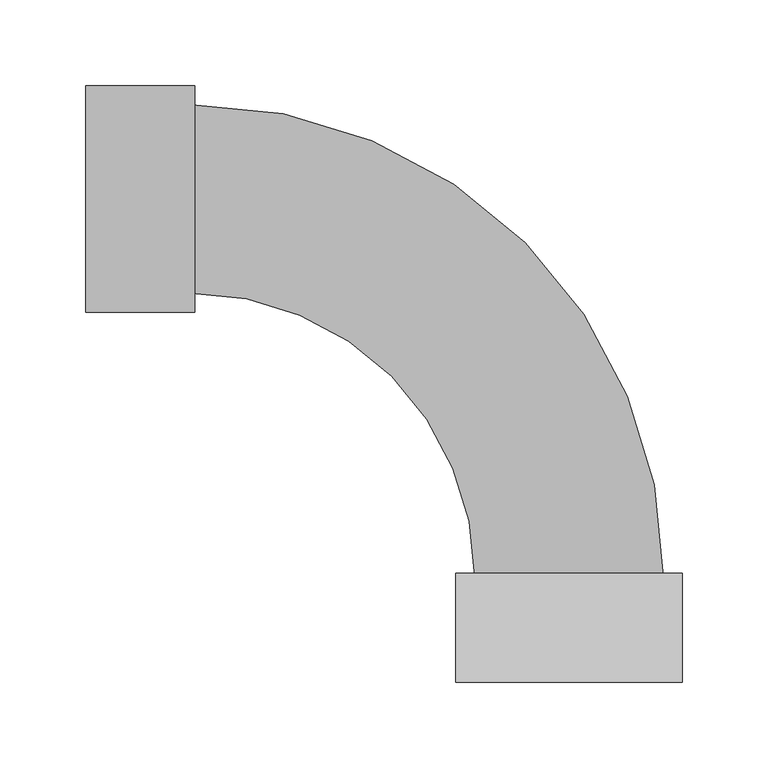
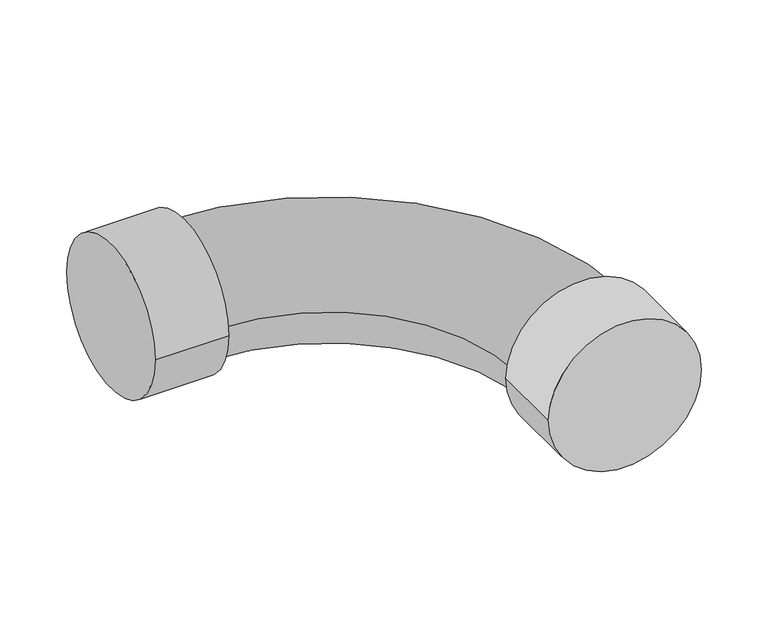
"""IFC4 building model written with IfcOpenShell, lengths in millimetres: pipe fitting geometry, 01051159 : Curvas 90º H/H."""

from ifc_helpers import new_model, si_unit, point, frame, origin, origin_2d, place, context, project, spatial, circle_curve, ellipse_curve, trimmed, segment, composite_curve, outline, extrude, source, transform, mapped, element, save
from ifc_brep_helpers import plane_surface, revolved_surface, advanced_brep


def pipe_fitting_ba4ada72(model_context):
    return source(origin(), model_context, "Body", "SolidModel", [
        extrude(outline(composite_curve([segment(trimmed(circle_curve(origin_2d(), 66.0), [point((66.0, 0.0))], [point((-66.0, 0.0))], False, "CARTESIAN"), True, "CONTINUOUS"), segment(trimmed(circle_curve(origin_2d(), 66.0), [point((-66.0, 0.0))], [point((66.0, 0.0))], False, "CARTESIAN"), True, "CONTINUOUS")], self_intersect=False)), frame((-281.5, 0.0, 0.0), z_axis=(1.0, 0.0, 0.0), x_axis=(0.0, 1.0, 0.0)), (0.0, 0.0, 1.0), 63.5),
        extrude(outline(composite_curve([segment(trimmed(circle_curve(origin_2d(), 66.0), [point((0.0, -66.0))], [point((0.0, 66.0))], False, "CARTESIAN"), True, "CONTINUOUS"), segment(trimmed(circle_curve(origin_2d(), 66.0), [point((0.0, 66.0))], [point((0.0, -66.0))], False, "CARTESIAN"), True, "CONTINUOUS")], self_intersect=False)), frame((0.0, -281.5, 0.0), z_axis=(0.0, 1.0, 0.0), x_axis=(0.0, 0.0, 1.0)), (0.0, 0.0, 1.0), 63.5),
        advanced_brep(
        [(-55.0, -220.0, 0.0), (55.0, -220.0, 0.0), (-220.0, -55.0, 0.0), (-220.0, 55.0, 0.0)],
        [
            (0, 1, circle_curve(frame((0.0, -220.0, 0.0), z_axis=(0.0, -1.0, 0.0), x_axis=(1.0, 0.0, 0.0)), 55.0)),
            (1, 0, circle_curve(frame((0.0, -220.0, 0.0), z_axis=(0.0, -1.0, 0.0), x_axis=(1.0, 0.0, 0.0)), 55.0)),
            (2, 3, circle_curve(frame((-220.0, 0.0, 0.0), z_axis=(-1.0, 0.0, 0.0), x_axis=(0.0, 1.0, 0.0)), 55.0)),
            (3, 2, circle_curve(frame((-220.0, 0.0, 0.0), z_axis=(-1.0, 0.0, 0.0), x_axis=(0.0, 1.0, 0.0)), 55.0)),
            (2, 0, circle_curve(frame((-220.0, -220.0, 0.0), z_axis=(0.0, 0.0, -1.0), x_axis=(1.0, 0.0, 0.0)), 165.0)),
            (1, 3, circle_curve(frame((-220.0, -220.0, 0.0), z_axis=(0.0, 0.0, 1.0), x_axis=(1.0, 0.0, 0.0)), 275.0)),
        ],
        [
            plane_surface(frame((0.0, -220.0, 0.0), z_axis=(0.0, -1.0, 0.0), x_axis=(0.0, 0.0, 1.0))),
            plane_surface(frame((-220.0, 0.0, 0.0), z_axis=(-1.0, 0.0, 0.0), x_axis=(0.0, 0.0, 1.0))),
            revolved_surface(trimmed(ellipse_curve(frame((0.0, -220.0, 0.0), z_axis=(0.0, 1.0, 0.0), x_axis=(1.0, 0.0, 0.0)), 55.0, 55.0), [point((-55.0, -220.0, 0.0))], [point((55.0, -220.0, 0.0))], True, "CARTESIAN"), (-220.0, -220.0, 0.0), (0.0, 0.0, -1.0)),
            revolved_surface(trimmed(ellipse_curve(frame((0.0, -220.0, 0.0), z_axis=(0.0, 1.0, 0.0), x_axis=(1.0, 0.0, 0.0)), 55.0, 55.0), [point((55.0, -220.0, 0.0))], [point((-55.0, -220.0, 0.0))], True, "CARTESIAN"), (-220.0, -220.0, 0.0), (0.0, 0.0, -1.0)),
        ],
        [
            (0, [[1, 2]]),
            (1, [[3, 4]]),
            (2, [[-3, 5, -2, 6]]),
            (3, [[-4, -6, -1, -5]]),
        ],
    ),
    ])


if __name__ == "__main__":
    model = new_model("IFC4")
    model_context = context("Model", 3, world=origin())
    ifc_project = project(units=[si_unit("LENGTHUNIT", "METRE", prefix="MILLI")], contexts=[model_context])
    site = spatial("IfcSite", under=ifc_project)
    building = spatial("IfcBuilding", under=site)
    placement = place(None, origin())
    pipe_fitting_shape = pipe_fitting_ba4ada72(model_context)
    element("IfcPipeFitting", 1, ObjectType="01051159 : Curvas 90º H/H", at=placement, inside=building, context=model_context, shape_type="MappedRepresentation", body=[
        mapped(pipe_fitting_shape, transform((0.0, 0.0, 0.0), x_axis=(1.0, 0.0, 0.0), y_axis=(0.0, 1.0, 0.0), z_axis=(0.0, 0.0, 1.0))),
    ])
    save(model, "model.ifc")
